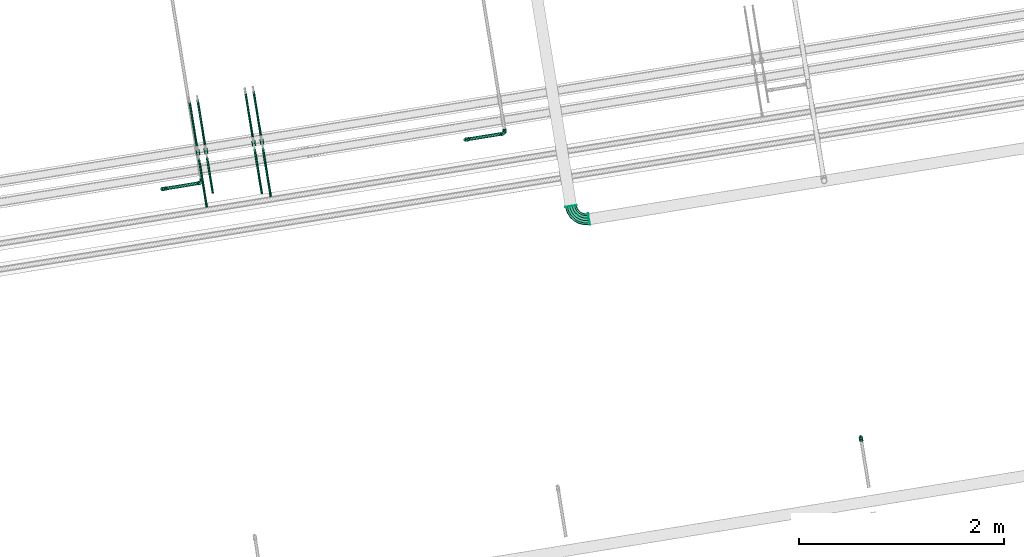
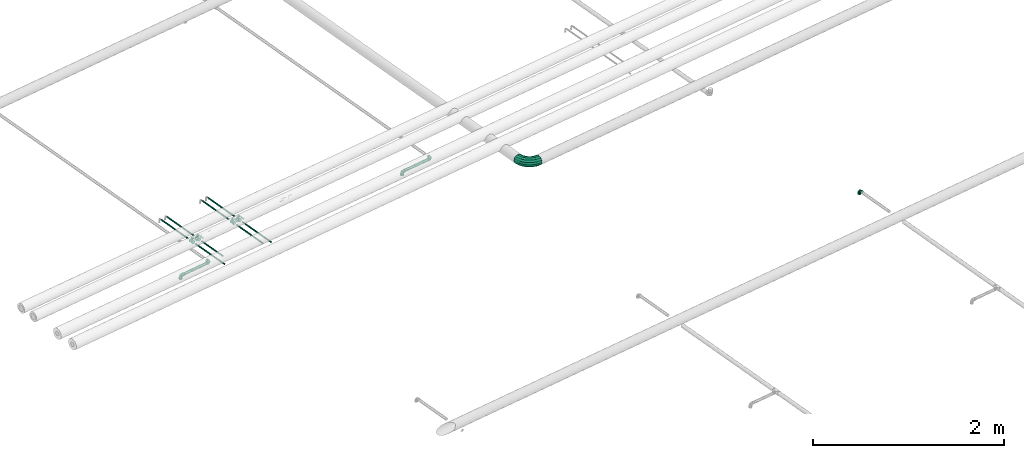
# One storey, part 23 of 56: 10 flow segments, 8 flow fittings, 4 flow controllers.
"""IFC2X3 building model written with IfcOpenShell, lengths in millimetres."""

from ifc_helpers import new_model, entity, si_unit, converted_unit, derived_unit, direction, frame, frame_2d, origin, origin_with_axes, origin_2d_with_axis, place, context, subcontext, project, spatial, polyline, rectangle, circle, outline, extrude, faceted_brep, source, transform, mapped, material, type_object, element, save


model = new_model("IFC2X3")

# Units and contexts
model_context = context("Model", 3, precision=0.01, world=origin(), true_north=direction((6.12323399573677e-17, 1.0)))
plan_context = context("Plan", 3, precision=1e-05, world=origin_with_axes())
body_context = subcontext(model_context, "Body", "Model", "MODEL_VIEW")
ifc_project = project(units=[converted_unit("PLANEANGLEUNIT", "DEGREE", entity("IfcPositiveLengthMeasure", 0.0174532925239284), si_unit("PLANEANGLEUNIT", "RADIAN"), dimensions=[0, 0, 0, 0, 0, 0, 0]), si_unit("AREAUNIT", "SQUARE_METRE"), si_unit("LENGTHUNIT", "METRE", prefix="MILLI"), si_unit("MASSUNIT", "GRAM", prefix="KILO"), si_unit("POWERUNIT", "WATT"), si_unit("PRESSUREUNIT", "PASCAL", prefix="KILO"), si_unit("FORCEUNIT", "NEWTON", prefix="KILO"), si_unit("ELECTRICVOLTAGEUNIT", "VOLT"), si_unit("ELECTRICCURRENTUNIT", "AMPERE"), si_unit("THERMODYNAMICTEMPERATUREUNIT", "DEGREE_CELSIUS"), si_unit("TIMEUNIT", "SECOND"), si_unit("VOLUMEUNIT", "CUBIC_METRE"), derived_unit("LINEARVELOCITYUNIT", [(si_unit("LENGTHUNIT", "METRE"), 1), (si_unit("TIMEUNIT", "SECOND"), -1)]), derived_unit("VOLUMETRICFLOWRATEUNIT", [(si_unit("VOLUMEUNIT", "CUBIC_METRE"), 1), (si_unit("TIMEUNIT", "SECOND"), -1)]), derived_unit("THERMALTRANSMITTANCEUNIT", [(si_unit("POWERUNIT", "WATT"), 1), (si_unit("THERMODYNAMICTEMPERATUREUNIT", "KELVIN"), -1), (si_unit("AREAUNIT", "SQUARE_METRE"), -1)]), derived_unit("SOUNDPRESSUREUNIT", [(si_unit("PRESSUREUNIT", "PASCAL"), 1)])], contexts=[model_context, plan_context])

# Site, building, storey
site_placement = place(None, frame((-3.09682673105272e-06, 1.93776733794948e-05, 0.0), z_axis=(0.0, 0.0, 1.0), x_axis=(-0.160806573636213, 0.986985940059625, 0.0)))
site = spatial("IfcSite", under=ifc_project, at=site_placement, Name="Default", CompositionType="ELEMENT")
building_placement = place(site_placement, frame((0.0, 0.0, 0.0), z_axis=(0.0, 0.0, 1.0), x_axis=(1.0, -2.77555756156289e-17, 0.0)))
building = spatial("IfcBuilding", under=site, at=building_placement, Name="Bygning (endres i Project Information)", CompositionType="ELEMENT")
storey_placement = place(building_placement, frame((0.0, 0.0, 51360.0000000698), z_axis=(0.0, 0.0, 1.0), x_axis=(1.0, -2.77555756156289e-17, 0.0)))
storey = spatial("IfcBuildingStorey", under=building, at=storey_placement, Name="H01-Nivå D+0,36", CompositionType="ELEMENT", Elevation=51360.0000000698)

# Flow controllers
ifc_material_1 = material(Name="3200.005 Tur")
valve_type_1 = type_object("IfcValveType", Name="BALL-VALVE-THREAD:ball-valve-thead-DN15", PredefinedType="NOTDEFINED", material=ifc_material_1)
shared_shape_1 = source(origin(), body_context, "Body", "SweptSolid", [
    extrude(outline(polyline([(-11.1300001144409, -19.2777256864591), (11.1300001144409, -19.2777256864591), (22.2600002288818, 0.0), (11.1300001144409, 19.2777256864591), (-11.1300001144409, 19.2777256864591), (-22.2600002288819, 0.0), (-11.1300001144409, -19.2777256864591)])), frame((-27.0, 0.0, 0.0), z_axis=(1.0, 0.0, 0.0), x_axis=(0.0, 0.0, -1.0)), (0.0, 0.0, 1.0), 12.0),
    extrude(outline(polyline([(-11.1300001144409, -19.2777256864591), (11.1300001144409, -19.2777256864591), (22.2600002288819, 0.0), (11.1300001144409, 19.2777256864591), (-11.1300001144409, 19.2777256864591), (-22.2600002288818, 0.0), (-11.1300001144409, -19.2777256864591)])), frame((15.0, 0.0, 0.0), z_axis=(1.0, 0.0, 0.0), x_axis=(0.0, -0.866025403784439, 0.5)), (0.0, 0.0, 1.0), 12.0),
    extrude(circle(Radius=18.5499992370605, at=frame_2d((0.0, -2.58494233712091e-14), x_axis=(1.0, 0.0))), frame((-15.0, 0.0, 0.0), z_axis=(1.0, 0.0, 0.0), x_axis=(0.0, 1.0, 0.0)), (0.0, 0.0, 1.0), 30.0),
    extrude(circle(Radius=10.5, at=frame_2d((5.28743715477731e-16, -1.23002813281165e-14), x_axis=(1.0, 0.0))), frame((2.70000076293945, 0.0, 0.0)), (0.0, 0.0, 1.0), 50.0),
    extrude(rectangle(XDim=17.0, YDim=90.0, at=origin_2d_with_axis()), frame((-42.2999992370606, 0.0, 50.0), z_axis=(0.0, 0.0, 1.0), x_axis=(0.0, -1.0, 0.0)), (0.0, 0.0, 1.0), 3.0),
])
for number, where, z_axis, x_axis, name in (
    (1, (1011858.42012948, -386975.112691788, 3299.99999997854), (0.0, 0.0, 1.0), (1.0, -2.77555756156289e-17, 0.0), "BALL-VALVE-THREAD:ball-valve-thead-DN15"),
    (2, (1011856.82274136, -386894.200478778, 3299.99999997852), (0.0, 0.0, 1.0), (1.0, -2.77555756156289e-17, 0.0), "BALL-VALVE-THREAD:ball-valve-thead-DN15"),
):
    element("IfcFlowController", number, at=place(storey_placement, frame(where, z_axis=z_axis, x_axis=x_axis)), inside=storey, type_object=valve_type_1, material=ifc_material_1, Name=name, ObjectType="BALL-VALVE-THREAD:ball-valve-thead-DN15", context=body_context, shape_type="MappedRepresentation", body=[
        mapped(shared_shape_1, transform((0.0, 0.0, 0.0), scale=1.0)),
    ])
valve_type_2 = type_object("IfcValveType", Name="BALL-VALVE-THREAD:ball-valve-thead-DN15", PredefinedType="NOTDEFINED", material=ifc_material_1)
shared_shape_2 = source(origin(), body_context, "Body", "SweptSolid", [
    extrude(outline(polyline([(-11.1300001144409, -19.2777256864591), (11.1300001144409, -19.2777256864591), (22.2600002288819, 0.0), (11.1300001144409, 19.2777256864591), (-11.1300001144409, 19.277725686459), (-22.2600002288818, 0.0), (-11.1300001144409, -19.2777256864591)])), frame((-27.0, 0.0, 0.0), z_axis=(1.0, 0.0, 0.0), x_axis=(0.0, -0.866025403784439, 0.5)), (0.0, 0.0, 1.0), 12.0),
    extrude(outline(polyline([(-11.1300001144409, -19.2777256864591), (11.1300001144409, -19.2777256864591), (22.2600002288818, 0.0), (11.130000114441, 19.2777256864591), (-11.1300001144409, 19.2777256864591), (-22.2600002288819, 0.0), (-11.1300001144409, -19.2777256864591)])), frame((15.0, 0.0, 0.0), z_axis=(1.0, 0.0, 0.0), x_axis=(0.0, 0.0, -1.0)), (0.0, 0.0, 1.0), 12.0),
    extrude(circle(Radius=18.5499992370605, at=frame_2d((0.0, -3.40872778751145e-14), x_axis=(1.0, 0.0))), frame((-15.0, 0.0, 0.0), z_axis=(1.0, 0.0, 0.0), x_axis=(0.0, -1.0, 0.0)), (0.0, 0.0, 1.0), 30.0),
    extrude(circle(Radius=10.5, at=frame_2d((5.28743715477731e-16, -2.39576230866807e-14), x_axis=(1.0, 0.0))), frame((2.70000076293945, 0.0, 0.0)), (0.0, 0.0, 1.0), 50.0),
    extrude(rectangle(XDim=90.0, YDim=17.0, at=origin_2d_with_axis()), frame((-42.2999992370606, 0.0, 50.0)), (0.0, 0.0, 1.0), 3.0),
])
for number, where, z_axis, x_axis, name in (
    (3, (1011856.99429018, -386341.6268451, 3299.99999997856), (0.0, 0.0, 1.0), (1.0, -2.77555756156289e-17, 0.0), "BALL-VALVE-THREAD:ball-valve-thead-DN15"),
    (4, (1011856.99429018, -386421.651949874, 3299.99999997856), (0.0, 0.0, 1.0), (1.0, -2.77555756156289e-17, 0.0), "BALL-VALVE-THREAD:ball-valve-thead-DN15"),
):
    element("IfcFlowController", number, at=place(storey_placement, frame(where, z_axis=z_axis, x_axis=x_axis)), inside=storey, type_object=valve_type_2, material=ifc_material_1, Name=name, ObjectType="BALL-VALVE-THREAD:ball-valve-thead-DN15", context=body_context, shape_type="MappedRepresentation", body=[
        mapped(shared_shape_2, transform((0.0, 0.0, 0.0), scale=1.0)),
    ])

# Flow fittings
ifc_material_2 = material(Name="3320.001")
pipe_fitting_type_1 = type_object("IfcPipeFittingType", Name="RS_53_PIF_UN_Elbow-EN10241_NOR:RS_53_PIF_UN_Elbow-EN10241_NOR", PredefinedType="NOTDEFINED", material=ifc_material_2)
shared_shape_3 = source(origin(), body_context, "Body", "Brep", [
    faceted_brep([(-43.0, 5.11167614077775, 19.0770350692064), (-43.0, 17.1040017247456, 9.87499999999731), (-43.0, 19.7500000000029, 0.0), (-43.0, 17.1040017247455, -9.87500000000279), (-43.0, 5.11167614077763, -19.0770350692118), (-43.0, -5.11167614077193, -19.0770350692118), (-43.0, -17.1040017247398, -9.87500000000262), (-43.0, -19.7499999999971, 0.0), (-43.0, -17.1040017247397, 9.87499999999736), (-43.0, -5.11167614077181, 19.0770350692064), (-21.7499999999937, -19.7499999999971, 0.0), (-21.7499999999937, -15.1293510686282, -12.6950870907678), (-21.7499999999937, -3.42946974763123, -19.4499675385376), (-21.7499999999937, 15.1294711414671, -12.694943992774), (-21.7499999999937, 19.7500000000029, 0.0), (-21.7499999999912, 5.85000069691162, -16.072455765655), (-21.7499999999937, 15.1294711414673, 12.6949439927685), (-21.7499999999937, 3.42965371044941, 19.4499351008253), (-21.7499999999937, -15.1293510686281, 12.6950870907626), (-5.41688095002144, -10.3200693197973, 0.0), (0.655979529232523, -2.00253561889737, 16.4678355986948), (-11.0449015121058, 9.84579831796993, 18.897380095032), (-18.5589216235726, 21.7499999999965, 6.75491881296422), (-15.1293490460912, 21.7499999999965, 12.6950895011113), (-20.3357864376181, 20.3357864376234, 0.0), (-19.7499999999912, 21.7499999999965, 0.0), (14.190054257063, 1.0, 0.0), (12.6950125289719, 21.7499999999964, 15.1294136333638), (6.75482439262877, 21.7499999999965, 18.5589559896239), (17.2232575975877, 12.3200689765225, 0.0), (-6.754824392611, 21.7499999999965, 18.558955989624), (19.7500000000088, 21.7499999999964, 0.0), (18.5589216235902, 21.7499999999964, 6.75491881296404), (0.0, 21.7499999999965, 19.7499999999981), (-18.5589216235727, 21.7499999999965, -6.75491881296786), (-10.1618436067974, 10.1618877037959, -19.0082217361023), (1.2569166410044, -0.890945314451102, -16.7093898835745), (0.0, 21.7499999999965, -19.7500000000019), (-6.75482439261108, 21.7499999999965, -18.5589559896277), (-12.6950125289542, 21.7499999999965, -15.1294136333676), (18.5589216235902, 21.7499999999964, -6.75491881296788), (15.1293490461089, 21.7499999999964, -12.6950895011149), (6.75482439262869, 21.7499999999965, -18.5589559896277), (-9.8749999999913, 43.0, 17.1040017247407), (0.0, 43.0, 19.7499999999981), (9.8750000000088, 43.0, 17.1040017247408), (19.0770350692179, 43.0, 5.11167614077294), (19.0770350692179, 43.0, -5.11167614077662), (9.87500000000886, 43.0, -17.1040017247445), (0.0, 43.0, -19.7500000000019), (-9.87499999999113, 43.0, -17.1040017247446), (-19.0770350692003, 43.0, -5.11167614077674), (-19.0770350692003, 43.0, 5.11167614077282)], [[[0, 1, 2, 3, 4, 5, 6, 7, 8, 9]], [[7, 6, 10]], [[6, 11, 10]], [[11, 6, 5]], [[11, 5, 12]], [[13, 4, 3]], [[14, 3, 2]], [[4, 13, 15, 12]], [[13, 3, 14]], [[4, 12, 5]], [[2, 1, 14]], [[1, 16, 14]], [[16, 1, 0]], [[16, 0, 17]], [[18, 9, 8]], [[10, 8, 7]], [[9, 18, 17]], [[18, 8, 10]], [[9, 17, 0]], [[18, 19, 20]], [[20, 21, 17]], [[22, 16, 23]], [[16, 17, 21]], [[24, 14, 22]], [[22, 25, 24]], [[14, 16, 22]], [[20, 26, 27]], [[27, 28, 20]], [[26, 29, 27]], [[23, 21, 30]], [[31, 32, 29]], [[18, 20, 17]], [[26, 20, 19]], [[21, 23, 16]], [[18, 10, 19]], [[33, 21, 20]], [[33, 30, 21]], [[27, 29, 32]], [[33, 20, 28]], [[14, 24, 34]], [[25, 34, 24]], [[12, 35, 36]], [[14, 34, 13]], [[36, 19, 11]], [[37, 35, 38]], [[38, 35, 39]], [[10, 11, 19]], [[34, 39, 13]], [[37, 36, 35]], [[36, 11, 12]], [[39, 35, 13]], [[40, 31, 29]], [[41, 36, 42]], [[36, 37, 42]], [[41, 40, 29]], [[26, 36, 41]], [[29, 26, 41]], [[19, 36, 26]], [[13, 35, 12, 15]], [[43, 44, 45, 46, 47, 48, 49, 50, 51, 52]], [[49, 37, 38]], [[50, 38, 39]], [[49, 38, 50]], [[51, 50, 39]], [[51, 34, 25]], [[34, 51, 39]], [[52, 25, 22]], [[22, 23, 52]], [[30, 43, 23]], [[52, 23, 43]], [[44, 43, 30]], [[33, 44, 30]], [[25, 52, 51]], [[44, 33, 28]], [[45, 28, 27]], [[44, 28, 45]], [[46, 45, 27]], [[46, 32, 31]], [[32, 46, 27]], [[47, 31, 40]], [[40, 41, 47]], [[42, 48, 41]], [[47, 41, 48]], [[49, 48, 42]], [[37, 49, 42]], [[31, 47, 46]]]),
])
for number, where, z_axis, x_axis in (
    (5, (1008068.93557438, -392286.663841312, 3370.0), (-2.77555756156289e-17, -1.0, 0.0), (0.0, 0.0, 1.0)),
    (6, (1011558.93557438, -388943.49115785, 3200.0), (1.0, -2.77555756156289e-17, 0.0), (0.0, 0.0, 1.0)),
    (7, (1011558.93557438, -389333.90511076, 3200.0), (0.0, 0.0, 1.0), (-2.77555756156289e-17, -1.0, 0.0)),
    (8, (1011558.93557438, -385943.49115785, 3200.0), (1.0, -2.77555756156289e-17, 0.0), (0.0, 0.0, 1.0)),
    (9, (1011558.93557438, -386333.90511076, 3200.0), (0.0, 0.0, 1.0), (-2.77555756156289e-17, -1.0, 0.0)),
):
    element("IfcFlowFitting", number, at=place(storey_placement, frame(where, z_axis=z_axis, x_axis=x_axis)), inside=storey, type_object=pipe_fitting_type_1, material=ifc_material_2, Name="RS_53_PIF_UN_Elbow-EN10241_NOR:RS_53_PIF_UN_Elbow-EN10241_NOR", ObjectType="RS_53_PIF_UN_Elbow-EN10241_NOR:RS_53_PIF_UN_Elbow-EN10241_NOR", context=body_context, shape_type="MappedRepresentation", body=[
        mapped(shared_shape_3, transform((0.0, 0.0, 0.0), scale=1.0)),
    ])
pipe_fitting_type_2 = type_object("IfcPipeFittingType", Name="Bend sveist:EN 10253-1 S235 3D ISO", PredefinedType="NOTDEFINED", material=ifc_material_2)
shared_shape_4 = source(origin(), body_context, "Body", "Brep", [
    faceted_brep([(-98.6091776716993, -49.9893123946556, 0.0), (-100.073997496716, -44.5225303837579, 24.7964556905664), (-153.0, -51.4903708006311, 24.7964556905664), (-153.0, -57.1500000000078, 0.0), (-104.178331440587, -29.2049475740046, 44.6816692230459), (-153.0, -35.6324421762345, 44.6816692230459), (-110.109265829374, -7.07039909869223, 55.7171301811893), (-153.0, -12.7170713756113, 55.7171301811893), (-116.692106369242, 17.4970962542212, 55.7171301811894), (-153.0, 12.7170713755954, 55.7171301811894), (-122.62304075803, 39.6316447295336, 44.6816692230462), (-153.0, 35.6324421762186, 44.6816692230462), (-126.7273747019, 54.9492275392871, 24.7964556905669), (-153.0, 51.4903708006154, 24.7964556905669), (-128.192194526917, 60.416009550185, 0.0), (-153.0, 57.1499999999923, 0.0), (-126.7273747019, 54.9492275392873, -24.7964556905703), (-153.0, 51.4903708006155, -24.7964556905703), (-122.62304075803, 39.6316447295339, -44.6816692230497), (-153.0, 35.6324421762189, -44.6816692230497), (-116.692106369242, 17.4970962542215, -55.7171301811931), (-153.0, 12.7170713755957, -55.7171301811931), (-110.109265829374, -7.07039909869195, -55.7171301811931), (-153.0, -12.717071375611, -55.7171301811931), (-104.178331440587, -29.2049475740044, -44.6816692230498), (-153.0, -35.6324421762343, -44.6816692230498), (-100.073997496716, -44.5225303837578, -24.7964556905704), (-153.0, -51.4903708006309, -24.7964556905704), (-47.924999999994, -28.9952386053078, 0.0), (-50.7548145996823, -24.0938559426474, 24.7964556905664), (-58.6837789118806, -10.3604869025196, 44.6816692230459), (-70.1414643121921, 9.48480634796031, 55.7171301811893), (-82.8585356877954, 31.5114200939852, 55.7171301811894), (-94.316221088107, 51.3567133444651, 44.6816692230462), (-102.245185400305, 65.0900823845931, 24.7964556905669), (-105.074999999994, 69.9914650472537, 0.0), (-102.245185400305, 65.0900823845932, -24.7964556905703), (-94.3162210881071, 51.3567133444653, -44.6816692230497), (-82.8585356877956, 31.5114200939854, -55.7171301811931), (-70.1414643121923, 9.48480634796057, -55.7171301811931), (-58.6837789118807, -10.3604869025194, -44.6816692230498), (-50.7548145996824, -24.0938559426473, -24.7964556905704), (-4.40150993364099, 4.40150993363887, 0.0), (-8.40347211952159, 8.40347211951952, 24.7964556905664), (-19.6167209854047, 19.6167209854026, 44.6816692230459), (-35.8203350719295, 35.8203350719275, 55.7171301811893), (-53.8049898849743, 53.8049898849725, 55.7171301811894), (-70.0086039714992, 70.0086039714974, 44.6816692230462), (-81.2218528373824, 81.2218528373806, 24.7964556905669), (-85.2238150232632, 85.2238150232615, 0.0), (-81.2218528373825, 81.2218528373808, -24.7964556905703), (-70.0086039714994, 70.0086039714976, -44.6816692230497), (-53.8049898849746, 53.8049898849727, -55.7171301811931), (-35.8203350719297, 35.8203350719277, -55.7171301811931), (-19.6167209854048, 19.6167209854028, -44.6816692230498), (-8.4034721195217, 8.40347211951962, -24.7964556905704), (28.9952386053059, 47.9249999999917, 0.0), (24.0938559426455, 50.7548145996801, 24.7964556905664), (10.3604869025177, 58.6837789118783, 44.6816692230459), (-9.4848063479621, 70.14146431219, 55.7171301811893), (-31.5114200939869, 82.8585356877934, 55.7171301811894), (-51.3567133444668, 94.3162210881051, 44.6816692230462), (-65.0900823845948, 102.245185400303, 24.7964556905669), (-69.9914650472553, 105.074999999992, 0.0), (-65.0900823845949, 102.245185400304, -24.7964556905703), (-51.356713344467, 94.3162210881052, -44.6816692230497), (-31.5114200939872, 82.8585356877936, -55.7171301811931), (-9.48480634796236, 70.1414643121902, -55.7171301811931), (10.3604869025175, 58.6837789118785, -44.6816692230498), (24.0938559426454, 50.7548145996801, -24.7964556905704), (49.989312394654, 98.6091776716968, 0.0), (44.5225303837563, 100.073997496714, 24.7964556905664), (29.204947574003, 104.178331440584, 44.6816692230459), (7.07039909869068, 110.109265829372, 55.7171301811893), (-17.4970962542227, 116.69210636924, 55.7171301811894), (-39.6316447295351, 122.623040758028, 44.6816692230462), (-54.9492275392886, 126.727374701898, 24.7964556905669), (-60.4160095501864, 128.192194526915, 0.0), (-54.9492275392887, 126.727374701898, -24.7964556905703), (-39.6316447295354, 122.623040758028, -44.6816692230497), (-17.497096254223, 116.69210636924, -55.7171301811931), (7.07039909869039, 110.109265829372, -55.7171301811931), (29.2049475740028, 104.178331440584, -44.6816692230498), (44.5225303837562, 100.073997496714, -24.7964556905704), (57.1500000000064, 153.0, 0.0), (51.4903708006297, 153.0, 24.7964556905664), (35.6324421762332, 153.0, 44.6816692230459), (12.71707137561, 153.0, 55.7171301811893), (-12.7170713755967, 153.0, 55.7171301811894), (-35.63244217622, 153.0, 44.6816692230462), (-51.4903708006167, 153.0, 24.7964556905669), (-57.1499999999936, 153.0, 0.0), (-51.4903708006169, 153.0, -24.7964556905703), (-35.6324421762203, 153.0, -44.6816692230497), (-12.717071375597, 153.0, -55.7171301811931), (12.7170713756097, 153.0, -55.7171301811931), (35.6324421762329, 153.0, -44.6816692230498), (51.4903708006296, 153.0, -24.7964556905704)], [[[0, 1, 2, 3]], [[1, 4, 5, 2]], [[4, 6, 7, 5]], [[6, 8, 9, 7]], [[8, 10, 11, 9]], [[10, 12, 13, 11]], [[12, 14, 15, 13]], [[14, 16, 17, 15]], [[16, 18, 19, 17]], [[18, 20, 21, 19]], [[20, 22, 23, 21]], [[22, 24, 25, 23]], [[24, 26, 27, 25]], [[26, 0, 3, 27]], [[28, 29, 1, 0]], [[29, 30, 4, 1]], [[30, 31, 6, 4]], [[31, 32, 8, 6]], [[32, 33, 10, 8]], [[33, 34, 12, 10]], [[34, 35, 14, 12]], [[35, 36, 16, 14]], [[36, 37, 18, 16]], [[37, 38, 20, 18]], [[38, 39, 22, 20]], [[39, 40, 24, 22]], [[40, 41, 26, 24]], [[41, 28, 0, 26]], [[42, 43, 29, 28]], [[43, 44, 30, 29]], [[44, 45, 31, 30]], [[45, 46, 32, 31]], [[46, 47, 33, 32]], [[47, 48, 34, 33]], [[48, 49, 35, 34]], [[49, 50, 36, 35]], [[50, 51, 37, 36]], [[51, 52, 38, 37]], [[52, 53, 39, 38]], [[53, 54, 40, 39]], [[54, 55, 41, 40]], [[55, 42, 28, 41]], [[56, 57, 43, 42]], [[57, 58, 44, 43]], [[58, 59, 45, 44]], [[59, 60, 46, 45]], [[60, 61, 47, 46]], [[61, 62, 48, 47]], [[62, 63, 49, 48]], [[63, 64, 50, 49]], [[64, 65, 51, 50]], [[65, 66, 52, 51]], [[66, 67, 53, 52]], [[67, 68, 54, 53]], [[68, 69, 55, 54]], [[69, 56, 42, 55]], [[70, 71, 57, 56]], [[71, 72, 58, 57]], [[72, 73, 59, 58]], [[73, 74, 60, 59]], [[74, 75, 61, 60]], [[75, 76, 62, 61]], [[76, 77, 63, 62]], [[77, 78, 64, 63]], [[78, 79, 65, 64]], [[79, 80, 66, 65]], [[80, 81, 67, 66]], [[81, 82, 68, 67]], [[82, 83, 69, 68]], [[83, 70, 56, 69]], [[84, 85, 71, 70]], [[85, 86, 72, 71]], [[86, 87, 73, 72]], [[87, 88, 74, 73]], [[88, 89, 75, 74]], [[89, 90, 76, 75]], [[90, 91, 77, 76]], [[91, 92, 78, 77]], [[92, 93, 79, 78]], [[93, 94, 80, 79]], [[94, 95, 81, 80]], [[95, 96, 82, 81]], [[96, 97, 83, 82]], [[97, 84, 70, 83]], [[3, 2, 5, 7, 9, 11, 13, 15, 17, 19, 21, 23, 25, 27]], [[97, 96, 95, 94, 93, 92, 91, 90, 89, 88, 87, 86, 85, 84]]]),
])
flow_fitting_placement = place(storey_placement, frame((1010598.2702348, -389854.90511076, 3400.0), z_axis=(0.0, 0.0, 1.0), x_axis=(-1.0, 2.77555756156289e-17, 0.0)))
element("IfcFlowFitting", 10, at=flow_fitting_placement, inside=storey, type_object=pipe_fitting_type_2, material=ifc_material_2, Name="Bend sveist:EN 10253-1 S235 3D ISO", ObjectType="Bend sveist:EN 10253-1 S235 3D ISO", context=body_context, shape_type="MappedRepresentation", body=[
    mapped(shared_shape_4, transform((0.0, 0.0, 0.0), scale=1.0)),
])
ifc_material_3 = material(Name="<Unnamed>")
pipe_fitting_type_3 = type_object("IfcPipeFittingType", Name="Sveis:Sveis", PredefinedType="NOTDEFINED", material=ifc_material_3)
shared_shape_5 = source(origin(), body_context, "Body", "SweptSolid", [
    extrude(circle(Radius=57.15, at=frame_2d((-2.60051383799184e-15, -9.23283724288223e-14), x_axis=(1.0, 0.0))), origin(), (0.0, 0.0, 1.0), 2.0),
])
for number, where, z_axis, x_axis in (
    (11, (1010751.2702348, -389854.90511076, 3400.0), (1.0, -2.77555756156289e-17, 0.0), (2.77555756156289e-17, 1.0, 0.0)),
    (12, (1010598.2702348, -390007.90511076, 3400.0), (-2.77555756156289e-17, -1.0, 0.0), (0.0, 0.0, 1.0)),
):
    element("IfcFlowFitting", number, at=place(storey_placement, frame(where, z_axis=z_axis, x_axis=x_axis)), inside=storey, type_object=pipe_fitting_type_3, material=ifc_material_3, Name="Sveis:Sveis", ObjectType="Sveis:Sveis", context=body_context, shape_type="MappedRepresentation", body=[
        mapped(shared_shape_5, transform((0.0, 0.0, 0.0), scale=1.0)),
    ])

# Flow segments
pipe_segment_type_1 = type_object("IfcPipeSegmentType", Name="Pipe Types:Stålrør sveist og gjenget", PredefinedType="NOTDEFINED", material=ifc_material_2)
flow_segment_1_placement = place(storey_placement, frame((0.0, 0.0, 0.0), z_axis=(0.0, 0.0, 1.0), x_axis=(1.0, -2.77555756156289e-17, 0.0)))
element("IfcFlowSegment", 13, at=flow_segment_1_placement, inside=storey, type_object=pipe_segment_type_1, Name="Pipe Types:Stålrør sveist og gjenget", ObjectType="Pipe Types:Stålrør sveist og gjenget", context=body_context, shape_type="SweptSolid", body=[
    extrude(circle(Radius=16.8500004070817, at=origin_2d_with_axis()), frame((1011558.93557438, -389312.15511076, 3200.0), z_axis=(0.0, 1.0, 0.0), x_axis=(1.0, 0.0, 0.0)), (0.0, 0.0, 1.0), 344.76395291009),
])
flow_segment_2_placement = place(storey_placement, frame((0.0, 0.0, 0.0), z_axis=(0.0, 0.0, 1.0), x_axis=(1.0, -2.77555756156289e-17, 0.0)))
element("IfcFlowSegment", 14, at=flow_segment_2_placement, inside=storey, type_object=pipe_segment_type_1, Name="Pipe Types:Stålrør sveist og gjenget", ObjectType="Pipe Types:Stålrør sveist og gjenget", context=body_context, shape_type="SweptSolid", body=[
    extrude(circle(Radius=16.8500004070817, at=origin_2d_with_axis()), frame((1011558.93557438, -386312.15511076, 3200.0), z_axis=(0.0, 1.0, 0.0), x_axis=(1.0, 0.0, 0.0)), (0.0, 0.0, 1.0), 344.76395291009),
])
pipe_segment_type_2 = type_object("IfcPipeSegmentType", Name="Pipe Types:Pressfittingssystem MM", PredefinedType="NOTDEFINED", material=ifc_material_1)
flow_segment_3_placement = place(storey_placement, frame((0.0, 0.0, 0.0), z_axis=(0.0, 0.0, 1.0), x_axis=(1.0, -2.77555756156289e-17, 0.0)))
element("IfcFlowSegment", 15, at=flow_segment_3_placement, inside=storey, type_object=pipe_segment_type_2, Name="Pipe Types:Pressfittingssystem MM", ObjectType="Pipe Types:Pressfittingssystem MM", context=body_context, shape_type="SweptSolid", body=[
    extrude(circle(Radius=9.00000001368, at=frame_2d((-6.93034962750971e-11, -8.66293703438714e-12), x_axis=(1.0, 0.0))), frame((1011357.24494582, -386894.200478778, 3299.99999997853), z_axis=(1.0, 0.0, 0.0), x_axis=(0.0, 1.0, 0.0)), (0.0, 0.0, 1.0), 437.577795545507),
])
flow_segment_4_placement = place(storey_placement, frame((0.0, 0.0, 0.0), z_axis=(0.0, 0.0, 1.0), x_axis=(1.0, -2.77555756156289e-17, 0.0)))
element("IfcFlowSegment", 16, at=flow_segment_4_placement, inside=storey, type_object=pipe_segment_type_2, Name="Pipe Types:Pressfittingssystem MM", ObjectType="Pipe Types:Pressfittingssystem MM", context=body_context, shape_type="SweptSolid", body=[
    extrude(circle(Radius=9.00000001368, at=frame_2d((0.0, -8.66293703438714e-12), x_axis=(1.0, 0.0))), frame((1011920.42012948, -386975.112691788, 3299.99999997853), z_axis=(1.0, 0.0, 0.0), x_axis=(0.0, -1.0, 0.0)), (0.0, 0.0, 1.0), 446.629948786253),
])
flow_segment_5_placement = place(storey_placement, frame((0.0, 0.0, 0.0), z_axis=(0.0, 0.0, 1.0), x_axis=(1.0, -2.77555756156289e-17, 0.0)))
element("IfcFlowSegment", 17, at=flow_segment_5_placement, inside=storey, type_object=pipe_segment_type_2, Name="Pipe Types:Pressfittingssystem MM", ObjectType="Pipe Types:Pressfittingssystem MM", context=body_context, shape_type="SweptSolid", body=[
    extrude(circle(Radius=9.00000001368, at=frame_2d((0.0, -8.66293703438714e-12), x_axis=(1.0, 0.0))), frame((1011918.82273766, -386894.216572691, 3299.99999997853), z_axis=(0.999999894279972, -0.000459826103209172, 0.0), x_axis=(0.000459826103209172, 0.999999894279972, 0.0)), (0.0, 0.0, 1.0), 447.912733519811),
])
flow_segment_6_placement = place(storey_placement, frame((0.0, 0.0, 0.0), z_axis=(0.0, 0.0, 1.0), x_axis=(1.0, -2.77555756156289e-17, 0.0)))
element("IfcFlowSegment", 18, at=flow_segment_6_placement, inside=storey, type_object=pipe_segment_type_2, Name="Pipe Types:Pressfittingssystem MM", ObjectType="Pipe Types:Pressfittingssystem MM", context=body_context, shape_type="SweptSolid", body=[
    extrude(circle(Radius=9.00000001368, at=frame_2d((-6.93034962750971e-11, 0.0), x_axis=(1.0, 0.0))), frame((1011317.55960026, -386975.112691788, 3299.99999997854), z_axis=(1.0, 0.0, 0.0), x_axis=(0.0, 1.0, 0.0)), (0.0, 0.0, 1.0), 478.860529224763),
])
flow_segment_7_placement = place(storey_placement, frame((0.0, 0.0, 0.0), z_axis=(0.0, 0.0, 1.0), x_axis=(1.0, -2.77555756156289e-17, 0.0)))
element("IfcFlowSegment", 19, at=flow_segment_7_placement, inside=storey, type_object=pipe_segment_type_2, Name="Pipe Types:Pressfittingssystem MM", ObjectType="Pipe Types:Pressfittingssystem MM", context=body_context, shape_type="SweptSolid", body=[
    extrude(circle(Radius=9.00000001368, at=origin_2d_with_axis()), frame((1011918.99429018, -386341.6268451, 3299.99999997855), z_axis=(1.0, 0.0, 0.0), x_axis=(0.0, -1.0, 0.0)), (0.0, 0.0, 1.0), 448.036192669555),
])
flow_segment_8_placement = place(storey_placement, frame((0.0, 0.0, 0.0), z_axis=(0.0, 0.0, 1.0), x_axis=(1.0, -2.77555756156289e-17, 0.0)))
element("IfcFlowSegment", 20, at=flow_segment_8_placement, inside=storey, type_object=pipe_segment_type_2, Name="Pipe Types:Pressfittingssystem MM", ObjectType="Pipe Types:Pressfittingssystem MM", context=body_context, shape_type="SweptSolid", body=[
    extrude(circle(Radius=9.00000001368, at=origin_2d_with_axis()), frame((1011918.99429018, -386421.651949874, 3299.99999997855), z_axis=(1.0, 0.0, 0.0), x_axis=(0.0, -1.0, 0.0)), (0.0, 0.0, 1.0), 447.721538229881),
])
flow_segment_9_placement = place(storey_placement, frame((0.0, 0.0, 0.0), z_axis=(0.0, 0.0, 1.0), x_axis=(1.0, -2.77555756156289e-17, 0.0)))
element("IfcFlowSegment", 21, at=flow_segment_9_placement, inside=storey, type_object=pipe_segment_type_2, Name="Pipe Types:Pressfittingssystem MM", ObjectType="Pipe Types:Pressfittingssystem MM", context=body_context, shape_type="SweptSolid", body=[
    extrude(circle(Radius=9.00000001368, at=frame_2d((0.0, -8.66293703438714e-12), x_axis=(1.0, 0.0))), frame((1011316.13376095, -386341.626845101, 3299.99999997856), z_axis=(1.0, 0.0, 0.0), x_axis=(0.0, 1.0, 0.0)), (0.0, 0.0, 1.0), 478.860529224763),
])
flow_segment_10_placement = place(storey_placement, frame((0.0, 0.0, 0.0), z_axis=(0.0, 0.0, 1.0), x_axis=(1.0, -2.77555756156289e-17, 0.0)))
element("IfcFlowSegment", 22, at=flow_segment_10_placement, inside=storey, type_object=pipe_segment_type_2, Name="Pipe Types:Pressfittingssystem MM", ObjectType="Pipe Types:Pressfittingssystem MM", context=body_context, shape_type="SweptSolid", body=[
    extrude(circle(Radius=9.00000001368, at=origin_2d_with_axis()), frame((1011439.99429018, -386421.651949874, 3299.95000038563), z_axis=(0.999999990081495, 0.0, 0.00014084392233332), x_axis=(0.0, 1.0, 0.0)), (0.0, 0.0, 1.0), 355.000003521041),
])

save(model, "model.ifc")
